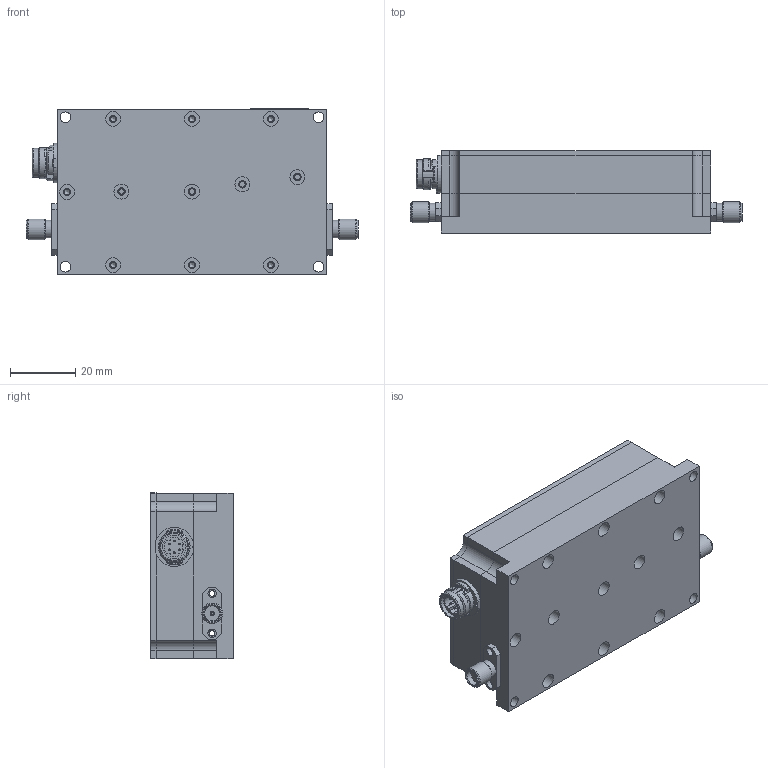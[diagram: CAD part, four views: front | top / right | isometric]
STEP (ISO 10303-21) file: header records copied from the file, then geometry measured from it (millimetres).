
FILE_DESCRIPTION((''),'2;1');
FILE_NAME('\\serpentor\Sales\Triad_Spec_Sheets\Triad_Spec_Sheet_Images\Housing_Images\STP\119.stp','2015-08-14T12:39:22',('Dean'),(''),'Autodesk Inventor 2013','Autodesk Inventor 2013','');
FILE_SCHEMA(('AUTOMOTIVE_DESIGN { 1 0 10303 214 1 1 1 1 }'));
Length unit declared in the file: inch
Products named in the file (6): TTRM1010; T531292801R1; T531292802; 400-012; 410-003; T501292801
Assembly tree (6 placements, depth 2):
  TTRM1010
    T531292801R1
    T531292802
    400-012
    410-003  x2
    T501292801
Bounding box: 101.6 x 25.22 x 50.8 mm (x, y, z)
Volume: 52471.9 mm3; surface area: 39935.9 mm2
Topology: 6 solids, 6 shells, 705 faces, 1861 edges, 1207 vertices
Faces by surface type: cylinder 323, plane 284, cone 79, sphere 12, torus 7
Full cylindrical faces by diameter (mm): 0.254 x2, 0.56 x6, 0.737 x2, 0.8 x6, 1.1 x6, 1.194 x26, 1.245 x2, 1.295 x2, 1.702 x30, 2.159 x2, 2.21 x1, 2.261 x11, 2.438 x8, 2.591 x4, 3.277 x4, 4.572 x11, 4.597 x2, 5.486 x4, 6.35 x2, 7.2 x1, 8.9 x1, 9 x1
Entity records: 23462 total; most frequent: CARTESIAN_POINT 7106, DIRECTION 3462, ORIENTED_EDGE 3036, EDGE_CURVE 1518, AXIS2_PLACEMENT_3D 1342, VERTEX_POINT 1080, EDGE_LOOP 986, VECTOR 778
